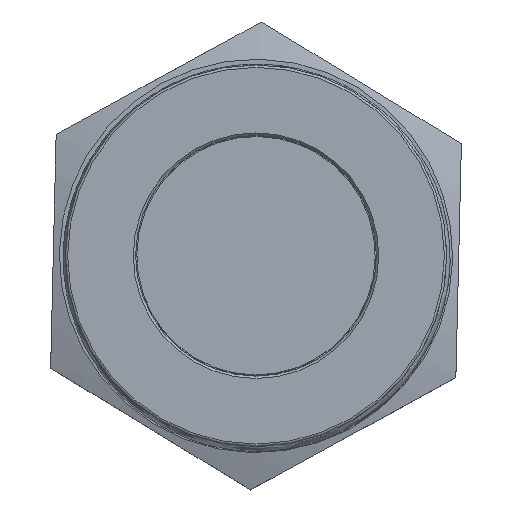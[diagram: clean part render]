
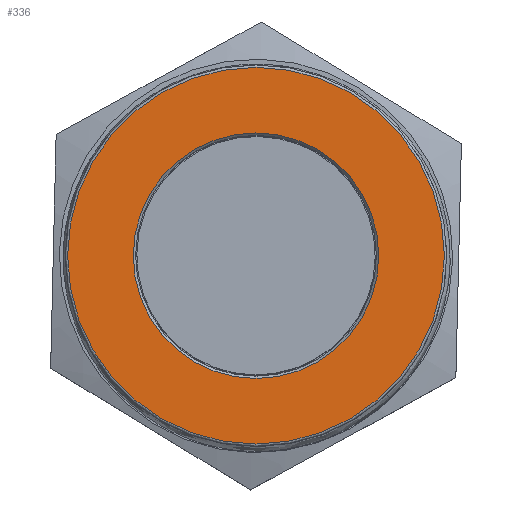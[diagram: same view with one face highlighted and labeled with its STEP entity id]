
A CAD part, top view. The second image highlights one B-rep face of the part: STEP entity #336.
In plain terms, the highlighted planar face has unit normal (0, 0, 1).
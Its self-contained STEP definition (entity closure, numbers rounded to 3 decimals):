
#336 = ADVANCED_FACE( '', ( #664, #665 ), #666, .T. );
#664 = FACE_OUTER_BOUND( '', #1076, .T. );
#665 = FACE_BOUND( '', #1077, .T. );
#666 = PLANE( '', #1078 );
#1076 = EDGE_LOOP( '', ( #6273 ) );
#1077 = EDGE_LOOP( '', ( #6274 ) );
#1078 = AXIS2_PLACEMENT_3D( '', #6275, #6276, #6277 );
#6273 = ORIENTED_EDGE( '', *, *, #7075, .T. );
#6274 = ORIENTED_EDGE( '', *, *, #7089, .T. );
#6275 = CARTESIAN_POINT( '', ( 0., 0., 15.95 ) );
#6276 = DIRECTION( '', ( 0., 0., 1. ) );
#6277 = DIRECTION( '', ( 1., 0., 0. ) );
#7075 = EDGE_CURVE( '', #7458, #7458, #7459, .T. );
#7089 = EDGE_CURVE( '', #7482, #7482, #7483, .F. );
#7458 = VERTEX_POINT( '', #8152 );
#7459 = CIRCLE( '', #8153, 7.9 );
#7482 = VERTEX_POINT( '', #8187 );
#7483 = CIRCLE( '', #8188, 5.15 );
#8152 = CARTESIAN_POINT( '', ( 7.9, 0., 15.95 ) );
#8153 = AXIS2_PLACEMENT_3D( '', #15576, #15577, #15578 );
#8187 = CARTESIAN_POINT( '', ( 5.15, 0., 15.95 ) );
#8188 = AXIS2_PLACEMENT_3D( '', #15593, #15594, #15595 );
#15576 = CARTESIAN_POINT( '', ( 0., 0., 15.95 ) );
#15577 = DIRECTION( '', ( 0., 0., 1. ) );
#15578 = DIRECTION( '', ( 1., 0., 0. ) );
#15593 = CARTESIAN_POINT( '', ( 0., 0., 15.95 ) );
#15594 = DIRECTION( '', ( 0., 0., 1. ) );
#15595 = DIRECTION( '', ( 1., 0., 0. ) );
